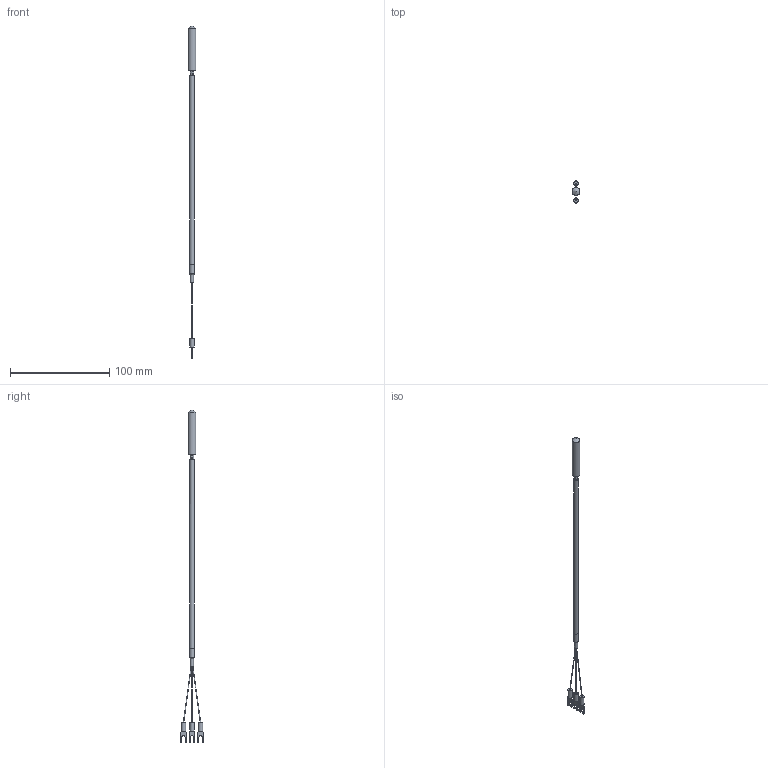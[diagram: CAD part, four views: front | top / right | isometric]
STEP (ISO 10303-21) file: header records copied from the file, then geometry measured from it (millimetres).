
FILE_DESCRIPTION (( 'STEP AP203' ), '1' );
FILE_NAME ('YIR102-7(0).STEP', '2024-08-28T04:48:43', ( '' ), ( '' ), 'SwSTEP 2.0', 'SolidWorks 2021', '' );
FILE_SCHEMA (( 'CONFIG_CONTROL_DESIGN' ));
Length unit declared in the file: millimetre
Products named in the file (1): YIR102-7(0)
Bounding box: 8 x 22.96 x 334.72 mm (x, y, z)
Volume: 6491.6 mm3; surface area: 5433.9 mm2
Topology: 1 solids, 1 shells, 86 faces, 206 edges, 132 vertices
Faces by surface type: plane 51, cylinder 29, cone 4, bspline 2
Full cylindrical faces by diameter (mm): 0.5 x1, 3.16 x1, 4.5 x3, 4.8 x1, 5 x1, 8 x1
Entity records: 2489 total; most frequent: CARTESIAN_POINT 431, DIRECTION 428, ORIENTED_EDGE 378, EDGE_CURVE 189, AXIS2_PLACEMENT_3D 154, VERTEX_POINT 129, LINE 120, VECTOR 120
